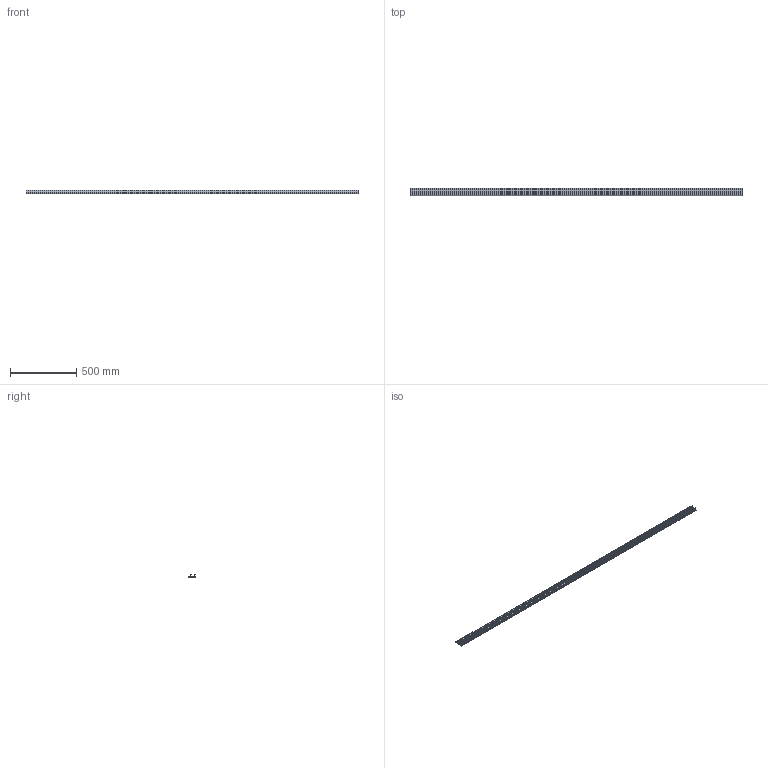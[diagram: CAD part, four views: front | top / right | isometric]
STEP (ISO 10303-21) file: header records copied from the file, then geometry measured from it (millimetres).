
FILE_DESCRIPTION(('STEP AP242'),'1');
FILE_NAME('OPO_51.047.11_volu_schn_3d.stp','2026-01-30T20:43:35',(' '),(' '),'Spatial InterOp 3D',' ',' ');
FILE_SCHEMA(('AP242_MANAGED_MODEL_BASED_3D_ENGINEERING_MIM_LF {1 0 10303 442 1 1 4}'));
Length unit declared in the file: millimetre
Products named in the file (1): 1
Bounding box: 2500 x 57 x 24.46 mm (x, y, z)
Volume: 694561 mm3; surface area: 805280.4 mm2
Topology: 1 solids, 1 shells, 102 faces, 700 edges, 1020 vertices
Faces by surface type: plane 78, cylinder 24
Entity records: 9160 total; most frequent: DIRECTION 1040, CARTESIAN_POINT 994, ORIENTED_EDGE 570, LINE 568, VECTOR 568, STYLED_ITEM 517, PRESENTATION_STYLE_ASSIGNMENT 517, COLOUR_RGB 517
